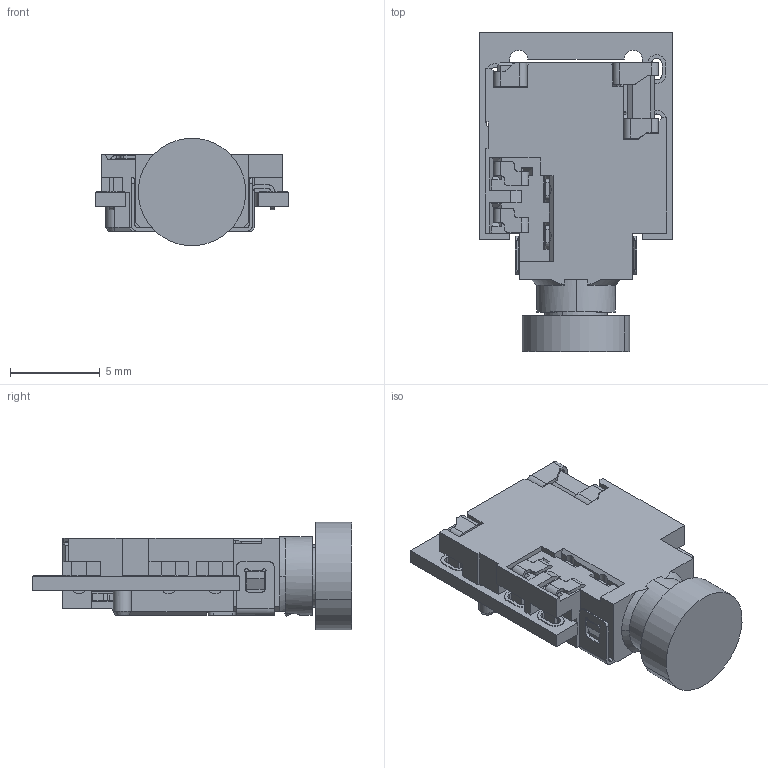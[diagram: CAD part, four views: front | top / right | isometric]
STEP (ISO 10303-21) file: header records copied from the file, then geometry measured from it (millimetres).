
FILE_DESCRIPTION (( 'STEP AP214' ), '1' );
FILE_NAME ('J3B-2.STEP', '2021-05-12T00:41:17', ( '' ), ( '' ), 'SwSTEP 2.0', 'SolidWorks 2016', '' );
FILE_SCHEMA (( 'AUTOMOTIVE_DESIGN' ));
Length unit declared in the file: millimetre
Products named in the file (4): J3B-2; PLUG_2-1; PCB
Assembly tree (3 placements, depth 2):
  J3B-2
    J3B-2
    PLUG_2-1
    PCB
Bounding box: 10.8 x 17.8 x 5.99 mm (x, y, z)
Volume: 494.8 mm3; surface area: 1241.1 mm2
Topology: 3 solids, 5 shells, 872 faces, 2501 edges, 1635 vertices
Faces by surface type: plane 531, cylinder 273, bspline 40, cone 25, sphere 3
Entity records: 31660 total; most frequent: CARTESIAN_POINT 9209, ORIENTED_EDGE 4984, DIRECTION 3904, EDGE_CURVE 2492, LINE 1738, VECTOR 1738, VERTEX_POINT 1632, AXIS2_PLACEMENT_3D 1083
